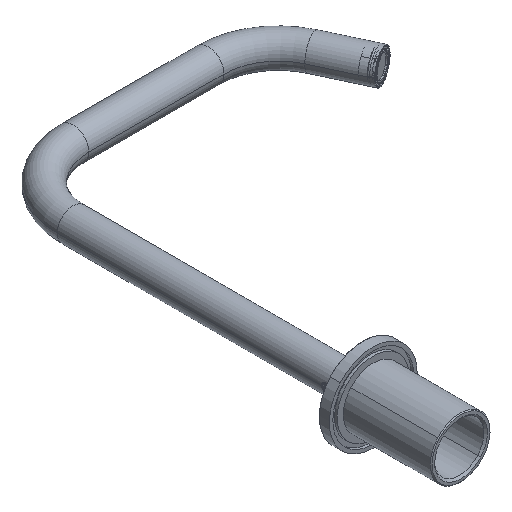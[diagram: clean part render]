
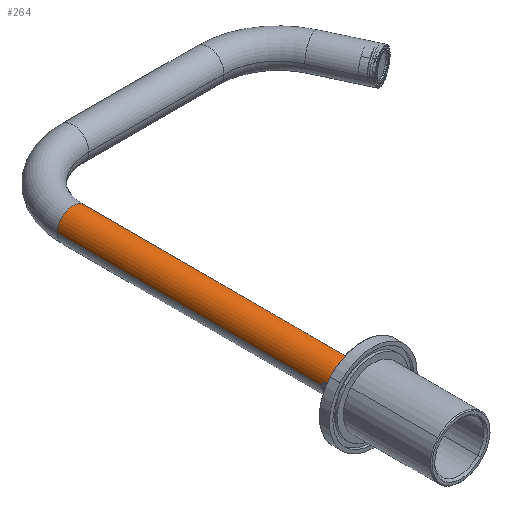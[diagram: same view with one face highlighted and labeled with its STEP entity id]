
A CAD part, isometric view. The second image highlights one B-rep face of the part: STEP entity #264.
In plain terms, the highlighted cylindrical face has radius 9 mm (diameter 18 mm), a partial arc.
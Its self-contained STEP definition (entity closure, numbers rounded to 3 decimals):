
#11 = CARTESIAN_POINT ( 'NONE',  ( 0., 0., 165. ) ) ;
#264 = ADVANCED_FACE ( 'NONE', ( #2631 ), #5063, .T. ) ;
#392 = EDGE_CURVE ( 'NONE', #2576, #1510, #8971, .T. ) ;
#429 = CARTESIAN_POINT ( 'NONE',  ( -8.863, -1.566, 12.468 ) ) ;
#580 = B_SPLINE_CURVE_WITH_KNOTS ( 'NONE', 3,
 ( #1424, #5395, #5427, #2336, #9398, #7780, #785, #6232, #8572, #4721, #3898, #9363, #3016, #9546, #1857, #6467, #429, #6601, #3445, #3376, #2715, #7255, #5762, #3510, #4191, #5687, #8958, #5035 ),
 .UNSPECIFIED., .F., .F.,
 ( 4, 2, 2, 2, 2, 2, 2, 2, 2, 2, 2, 2, 2, 4 ),
 ( 0., 0., 0.001, 0.001, 0.001, 0.002, 0.003, 0.003, 0.003, 0.004, 0.004, 0.005, 0.005, 0.005 ),
 .UNSPECIFIED. ) ;
#602 = LINE ( 'NONE', #9271, #1576 ) ;
#785 = CARTESIAN_POINT ( 'NONE',  ( -8.962, -0.827, 14.432 ) ) ;
#877 = VERTEX_POINT ( 'NONE', #2772 ) ;
#1207 = EDGE_CURVE ( 'NONE', #877, #1510, #3438, .T. ) ;
#1378 = ORIENTED_EDGE ( 'NONE', *, *, #392, .T. ) ;
#1424 = CARTESIAN_POINT ( 'NONE',  ( -9., 0., 14.65 ) ) ;
#1510 = VERTEX_POINT ( 'NONE', #3857 ) ;
#1543 = DIRECTION ( 'NONE',  ( 0., 0., 1. ) ) ;
#1576 = VECTOR ( 'NONE', #4631, 1000. ) ;
#1626 = AXIS2_PLACEMENT_3D ( 'NONE', #6578, #1863, #9047 ) ;
#1705 = CARTESIAN_POINT ( 'NONE',  ( 9., 0., 165. ) ) ;
#1857 = CARTESIAN_POINT ( 'NONE',  ( -8.849, -1.639, 12.783 ) ) ;
#1863 = DIRECTION ( 'NONE',  ( 0., 0., -1. ) ) ;
#2051 = CARTESIAN_POINT ( 'NONE',  ( 0., 0., 0. ) ) ;
#2336 = CARTESIAN_POINT ( 'NONE',  ( -8.99, -0.428, 14.597 ) ) ;
#2483 = ORIENTED_EDGE ( 'NONE', *, *, #3529, .T. ) ;
#2576 = VERTEX_POINT ( 'NONE', #5152 ) ;
#2612 = VERTEX_POINT ( 'NONE', #6794 ) ;
#2624 = ORIENTED_EDGE ( 'NONE', *, *, #4688, .T. ) ;
#2631 = FACE_OUTER_BOUND ( 'NONE', #9751, .T. ) ;
#2715 = CARTESIAN_POINT ( 'NONE',  ( -8.944, -1.007, 11.688 ) ) ;
#2772 = CARTESIAN_POINT ( 'NONE',  ( 9., 0., 165. ) ) ;
#2876 = CIRCLE ( 'NONE', #6115, 9. ) ;
#2950 = DIRECTION ( 'NONE',  ( 1., 0., 0. ) ) ;
#3016 = CARTESIAN_POINT ( 'NONE',  ( -8.847, -1.65, 13.216 ) ) ;
#3376 = CARTESIAN_POINT ( 'NONE',  ( -8.934, -1.09, 11.756 ) ) ;
#3438 = LINE ( 'NONE', #1705, #8810 ) ;
#3445 = CARTESIAN_POINT ( 'NONE',  ( -8.904, -1.32, 11.987 ) ) ;
#3510 = CARTESIAN_POINT ( 'NONE',  ( -8.985, -0.532, 11.434 ) ) ;
#3529 = EDGE_CURVE ( 'NONE', #3682, #2612, #9958, .T. ) ;
#3633 = ORIENTED_EDGE ( 'NONE', *, *, #1207, .F. ) ;
#3636 = CARTESIAN_POINT ( 'NONE',  ( -9., 0., 11.35 ) ) ;
#3659 = DIRECTION ( 'NONE',  ( 0., 0., 1. ) ) ;
#3682 = VERTEX_POINT ( 'NONE', #9873 ) ;
#3735 = AXIS2_PLACEMENT_3D ( 'NONE', #2051, #3659, #2950 ) ;
#3857 = CARTESIAN_POINT ( 'NONE',  ( 9., 0., 0. ) ) ;
#3898 = CARTESIAN_POINT ( 'NONE',  ( -8.884, -1.442, 13.831 ) ) ;
#4191 = CARTESIAN_POINT ( 'NONE',  ( -8.99, -0.429, 11.403 ) ) ;
#4319 = VERTEX_POINT ( 'NONE', #3636 ) ;
#4631 = DIRECTION ( 'NONE',  ( 0., 0., -1. ) ) ;
#4688 = EDGE_CURVE ( 'NONE', #2612, #4319, #580, .T. ) ;
#4721 = CARTESIAN_POINT ( 'NONE',  ( -8.904, -1.319, 14.015 ) ) ;
#5035 = CARTESIAN_POINT ( 'NONE',  ( -9., 0., 11.35 ) ) ;
#5063 = CYLINDRICAL_SURFACE ( 'NONE', #1626, 9. ) ;
#5083 = VECTOR ( 'NONE', #7260, 1000. ) ;
#5090 = EDGE_CURVE ( 'NONE', #3682, #877, #2876, .T. ) ;
#5152 = CARTESIAN_POINT ( 'NONE',  ( -9., 0., 0. ) ) ;
#5395 = CARTESIAN_POINT ( 'NONE',  ( -9., -0.109, 14.65 ) ) ;
#5427 = CARTESIAN_POINT ( 'NONE',  ( -8.998, -0.217, 14.639 ) ) ;
#5687 = CARTESIAN_POINT ( 'NONE',  ( -8.998, -0.217, 11.361 ) ) ;
#5762 = CARTESIAN_POINT ( 'NONE',  ( -8.971, -0.732, 11.517 ) ) ;
#6115 = AXIS2_PLACEMENT_3D ( 'NONE', #11, #1543, #10055 ) ;
#6142 = ORIENTED_EDGE ( 'NONE', *, *, #5090, .F. ) ;
#6232 = CARTESIAN_POINT ( 'NONE',  ( -8.944, -1.006, 14.312 ) ) ;
#6467 = CARTESIAN_POINT ( 'NONE',  ( -8.857, -1.597, 12.571 ) ) ;
#6578 = CARTESIAN_POINT ( 'NONE',  ( 0., 0., 165. ) ) ;
#6601 = CARTESIAN_POINT ( 'NONE',  ( -8.884, -1.441, 12.168 ) ) ;
#6794 = CARTESIAN_POINT ( 'NONE',  ( -9., 0., 14.65 ) ) ;
#7255 = CARTESIAN_POINT ( 'NONE',  ( -8.962, -0.828, 11.569 ) ) ;
#7260 = DIRECTION ( 'NONE',  ( 0., 0., -1. ) ) ;
#7780 = CARTESIAN_POINT ( 'NONE',  ( -8.971, -0.733, 14.482 ) ) ;
#7879 = EDGE_CURVE ( 'NONE', #4319, #2576, #602, .T. ) ;
#8572 = CARTESIAN_POINT ( 'NONE',  ( -8.934, -1.091, 14.242 ) ) ;
#8780 = ORIENTED_EDGE ( 'NONE', *, *, #7879, .T. ) ;
#8810 = VECTOR ( 'NONE', #9400, 1000. ) ;
#8958 = CARTESIAN_POINT ( 'NONE',  ( -9., -0.108, 11.35 ) ) ;
#8971 = CIRCLE ( 'NONE', #3735, 9. ) ;
#9047 = DIRECTION ( 'NONE',  ( -1., 0., 0. ) ) ;
#9271 = CARTESIAN_POINT ( 'NONE',  ( -9., 0., 165. ) ) ;
#9363 = CARTESIAN_POINT ( 'NONE',  ( -8.856, -1.606, 13.434 ) ) ;
#9398 = CARTESIAN_POINT ( 'NONE',  ( -8.985, -0.533, 14.565 ) ) ;
#9400 = DIRECTION ( 'NONE',  ( 0., 0., -1. ) ) ;
#9546 = CARTESIAN_POINT ( 'NONE',  ( -8.847, -1.65, 12.893 ) ) ;
#9668 = CARTESIAN_POINT ( 'NONE',  ( -9., 0., 165. ) ) ;
#9751 = EDGE_LOOP ( 'NONE', ( #3633, #6142, #2483, #2624, #8780, #1378 ) ) ;
#9873 = CARTESIAN_POINT ( 'NONE',  ( -9., 0., 165. ) ) ;
#9958 = LINE ( 'NONE', #9668, #5083 ) ;
#10055 = DIRECTION ( 'NONE',  ( 1., 0., 0. ) ) ;
